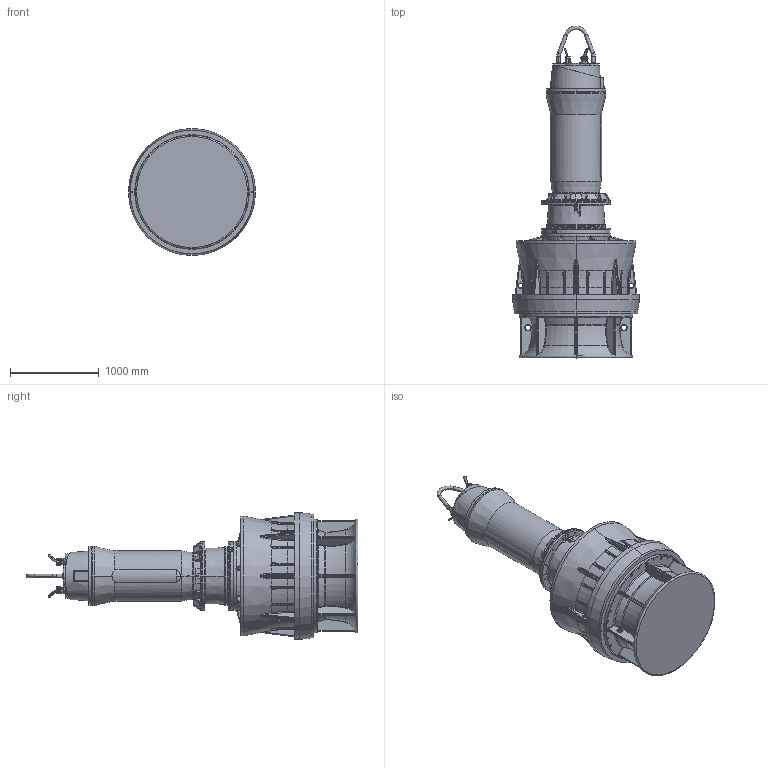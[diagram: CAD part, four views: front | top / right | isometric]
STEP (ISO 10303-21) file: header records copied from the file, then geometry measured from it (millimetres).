
FILE_DESCRIPTION (( 'STEP AP214' ), '1' );
FILE_NAME ('PE7_VUPX1200G3_STD_A.STEP', '2017-05-08T06:03:07', ( '' ), ( '' ), 'SwSTEP 2.0', 'SolidWorks 2017', '' );
FILE_SCHEMA (( 'AUTOMOTIVE_DESIGN' ));
Length unit declared in the file: millimetre
Products named in the file (1): PE7_VUPX1200G3_STD_A
Bounding box: 1428 x 3734 x 1428 mm (x, y, z)
Volume: 2061484886.5 mm3; surface area: 16957514.7 mm2
Topology: 3 solids, 30 shells, 4096 faces, 9908 edges, 5718 vertices
Faces by surface type: bspline 1263, cylinder 962, plane 874, torus 466, cone 404, sphere 127
Entity records: 232464 total; most frequent: CARTESIAN_POINT 102815, ORIENTED_EDGE 19240, DIRECTION 15637, EDGE_CURVE 9620, AXIS2_PLACEMENT_3D 6486, VERTEX_POINT 5717, EDGE_LOOP 4295, UNCERTAINTY_MEASURE_WITH_UNIT 4101
